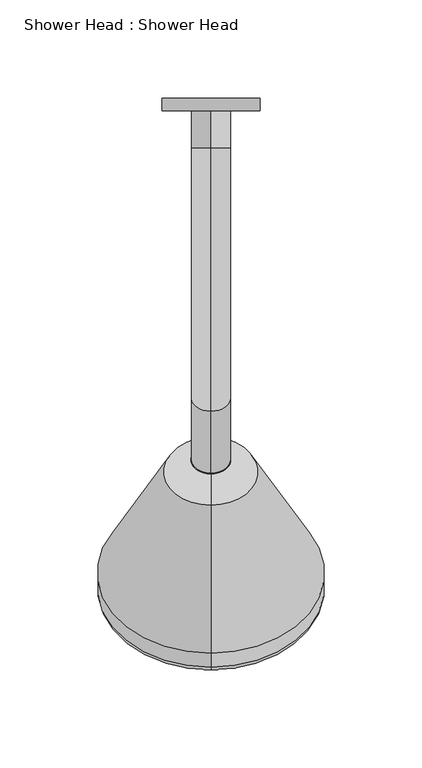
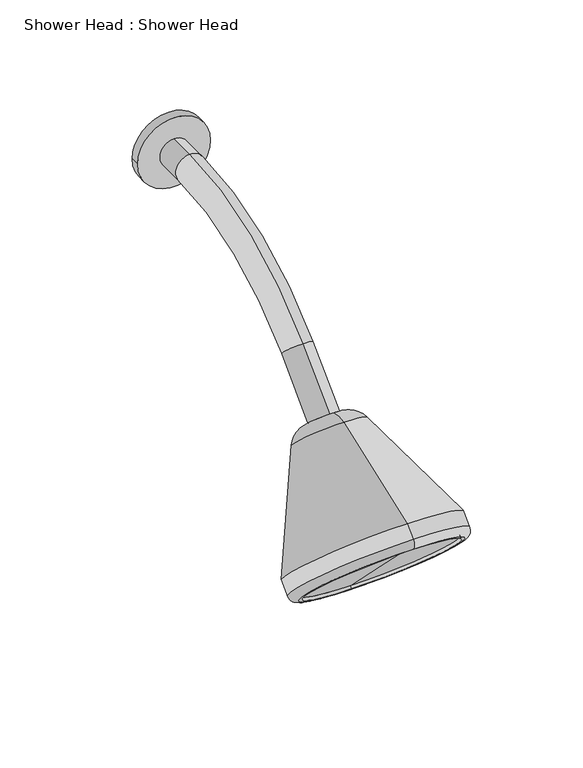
"""IFC4 building model written with IfcOpenShell, lengths in millimetres: flow terminal geometry, Shower Head : Shower Head."""

import ifcopenshell
import ifcopenshell.guid

model = None  # the IFC model being written
_history = None  # IfcOwnerHistory: only IFC2X3 demands one
_inside = {}  # id of a spatial element -> (the spatial element, [elements in it])
_under = {}  # id of a project, library or spatial element -> (it, [spatial elements below it])
_declared = {}  # id of a project -> (the project, [libraries it declares])
_typed = {}  # id of a type object -> (the type object, [elements of that type])
_made_of = {}  # id of a material, layer set ... -> (it, [elements and type objects made of it])


def new_model(schema):
    """Start an empty IFC model of exactly this schema.

    Asked for "IFC4X3", IfcOpenShell would pick the latest addendum, in which some entities
    have other attributes; the version numbers below select the first issue.
    IFC2X3 requires an IfcOwnerHistory on every rooted entity: one is made here for all.
    """
    global model, _history
    if schema == "IFC4X3":
        model = ifcopenshell.file(schema_version=(4, 3, 0, 0))
    else:
        model = ifcopenshell.file(schema=schema)
    _inside.clear()
    _under.clear()
    _declared.clear()
    _typed.clear()
    _made_of.clear()
    _history = None
    if model.schema == "IFC2X3":
        org = make("IfcOrganization", Name="unknown")
        user = make(
            "IfcPersonAndOrganization",
            ThePerson=make("IfcPerson", FamilyName="unknown"),
            TheOrganization=org,
        )
        app = make(
            "IfcApplication",
            ApplicationDeveloper=org,
            Version="unknown",
            ApplicationFullName="unknown",
            ApplicationIdentifier="unknown",
        )
        _history = make(
            "IfcOwnerHistory",
            OwningUser=user,
            OwningApplication=app,
            ChangeAction="ADDED",
            CreationDate=0,
        )
    return model


def make(cls, **values):
    """One entity of the class cls with the attributes given. An attribute that is None is left unset."""
    return model.create_entity(
        cls, **{name: value for name, value in values.items() if value is not None}
    )


def rooted(cls, **values):
    """An entity with a GlobalId (a new one), such as an element, a storey or a relation."""
    return make(cls, GlobalId=ifcopenshell.guid.new(), OwnerHistory=_history, **values)


def si_unit(unit_type, name, prefix=None):
    """IfcSIUnit, for example si_unit("LENGTHUNIT", "METRE", prefix="MILLI")."""
    return make("IfcSIUnit", UnitType=unit_type, Prefix=prefix, Name=name)


def assignment(units):
    """IfcUnitAssignment: the units of a project."""
    return None if units is None else make("IfcUnitAssignment", Units=units)


def point(xyz):
    """IfcCartesianPoint."""
    return None if xyz is None else make("IfcCartesianPoint", Coordinates=xyz)


def direction(xyz):
    """IfcDirection."""
    return None if xyz is None else make("IfcDirection", DirectionRatios=xyz)


def frame(location, z_axis=None, x_axis=None):
    """IfcAxis2Placement3D, a coordinate frame: its origin and axes. An axis left out is left unset."""
    return make(
        "IfcAxis2Placement3D",
        Location=point(location),
        Axis=direction(z_axis),
        RefDirection=direction(x_axis),
    )


def frame_2d(location, x_axis=None):
    """IfcAxis2Placement2D, a coordinate frame in the plane: its origin and x axis."""
    return make(
        "IfcAxis2Placement2D", Location=point(location), RefDirection=direction(x_axis)
    )


def origin():
    """The frame at (0, 0, 0) with its axes left unset."""
    return frame((0.0, 0.0, 0.0))


def place(relative_to, where):
    """IfcLocalPlacement: puts the frame where relative to a parent placement (None: the world)."""
    return make(
        "IfcLocalPlacement", PlacementRelTo=relative_to, RelativePlacement=where
    )


def context(
    kind, dimensions, precision=None, world=None, true_north=None, identifier=None
):
    """IfcGeometricRepresentationContext, for example the 3D "Model" context."""
    return make(
        "IfcGeometricRepresentationContext",
        ContextIdentifier=identifier,
        ContextType=kind,
        CoordinateSpaceDimension=dimensions,
        Precision=precision,
        WorldCoordinateSystem=world,
        TrueNorth=true_north,
    )


def project(units=None, contexts=None):
    """IfcProject with its units and contexts."""
    return rooted(
        "IfcProject",
        Name="project",
        RepresentationContexts=contexts,
        UnitsInContext=assignment(units),
    )


def spatial(cls, under=None, at=None, **own):
    """A site, building, storey or space (cls), placed at a placement, below another one or the project."""
    s = rooted(cls, ObjectPlacement=at, **own)
    if under is not None:
        _under.setdefault(under.id(), (under, []))[1].append(s)
    return s


def polyline(points):
    """IfcPolyline through the points."""
    return make("IfcPolyline", Points=[point(p) for p in points])


def circle_curve(where, radius):
    """IfcCircle in the frame where."""
    return make("IfcCircle", Position=where, Radius=radius)


def ellipse_curve(where, semi_axis1, semi_axis2):
    """IfcEllipse in the frame where."""
    return make(
        "IfcEllipse", Position=where, SemiAxis1=semi_axis1, SemiAxis2=semi_axis2
    )


def trimmed(basis, trim1, trim2, sense, master):
    """IfcTrimmedCurve: the piece of a basis curve between two trims."""
    return make(
        "IfcTrimmedCurve",
        BasisCurve=basis,
        Trim1=trim1,
        Trim2=trim2,
        SenseAgreement=sense,
        MasterRepresentation=master,
    )


def segment(curve, same_sense, transition):
    """IfcCompositeCurveSegment."""
    return make(
        "IfcCompositeCurveSegment",
        Transition=transition,
        SameSense=same_sense,
        ParentCurve=curve,
    )


def composite_curve(segments, self_intersect=None):
    """IfcCompositeCurve: segments joined end to end."""
    return make("IfcCompositeCurve", Segments=segments, SelfIntersect=self_intersect)


def outline(outer, holes=None, kind="AREA"):
    """IfcArbitraryClosedProfileDef: a profile drawn as a closed curve; with holes, ...WithVoids."""
    if holes is None:
        return make("IfcArbitraryClosedProfileDef", ProfileType=kind, OuterCurve=outer)
    return make(
        "IfcArbitraryProfileDefWithVoids",
        ProfileType=kind,
        OuterCurve=outer,
        InnerCurves=holes,
    )


def extrude(swept, where, along, depth):
    """IfcExtrudedAreaSolid: the profile swept, set in the frame where, extruded along a direction by depth."""
    return make(
        "IfcExtrudedAreaSolid",
        SweptArea=swept,
        Position=where,
        ExtrudedDirection=direction(along),
        Depth=depth,
    )


def shape(context_of_items, identifier, shape_type, items):
    """IfcShapeRepresentation: the items that make up one representation, for example the "Body"."""
    return make(
        "IfcShapeRepresentation",
        ContextOfItems=context_of_items,
        RepresentationIdentifier=identifier,
        RepresentationType=shape_type,
        Items=items,
    )


def source(mapping_origin, context_of_items, identifier, shape_type, items):
    """IfcRepresentationMap: a shape defined once, which mapped items show again and again."""
    return make(
        "IfcRepresentationMap",
        MappingOrigin=mapping_origin,
        MappedRepresentation=shape(context_of_items, identifier, shape_type, items),
    )


def transform(
    local_origin,
    x_axis=None,
    y_axis=None,
    z_axis=None,
    scale=None,
    scale2=None,
    scale3=None,
    uniform=True,
):
    """IfcCartesianTransformationOperator3D, or its non-uniform kind. x_axis, y_axis, z_axis: its Axis1, 2, 3."""
    if uniform:
        return make(
            "IfcCartesianTransformationOperator3D",
            Axis1=direction(x_axis),
            Axis2=direction(y_axis),
            LocalOrigin=point(local_origin),
            Scale=scale,
            Axis3=direction(z_axis),
        )
    return make(
        "IfcCartesianTransformationOperator3DnonUniform",
        Axis1=direction(x_axis),
        Axis2=direction(y_axis),
        LocalOrigin=point(local_origin),
        Scale=scale,
        Axis3=direction(z_axis),
        Scale2=scale2,
        Scale3=scale3,
    )


def mapped(mapping_source, mapping_target):
    """IfcMappedItem: shows the shape of a source again, moved by a transform."""
    return make(
        "IfcMappedItem", MappingSource=mapping_source, MappingTarget=mapping_target
    )


def made_of(thing, what):
    """Note that an element or type object is made of a material, layer set ...; save() writes the relation."""
    if what is not None:
        _made_of.setdefault(what.id(), (what, []))[1].append(thing)
    return thing


def element(
    cls,
    number,
    at=None,
    inside=None,
    cuts=None,
    type_object=None,
    material=None,
    context=None,
    identifier="Body",
    shape_type=None,
    held_by="IfcProductDefinitionShape",
    body=None,
    shapes=None,
    **own,
):
    """One element of the class cls, such as IfcWall. Its Tag is "e" and its number.

    at: its placement. inside: the storey or other place that contains it. cuts: it is an
    opening in that element (IfcRelVoidsElement). A single representation is given by context,
    identifier, shape_type and body (its items); several are given by shapes. held_by: the class
    of the entity that holds the representations. save() writes the other relations.
    """
    e = rooted(cls, Tag="e%d" % number, ObjectPlacement=at, **own)
    if body is not None:
        shapes = [shape(context, identifier, shape_type, body)]
    if shapes is not None:
        e.Representation = make(held_by, Representations=shapes)
    if inside is not None:
        _inside.setdefault(inside.id(), (inside, []))[1].append(e)
    if cuts is not None:
        rooted(
            "IfcRelVoidsElement", RelatingBuildingElement=cuts, RelatedOpeningElement=e
        )
    if type_object is not None:
        _typed.setdefault(type_object.id(), (type_object, []))[1].append(e)
    return made_of(e, material)


def aggregate(whole, parts):
    """IfcRelAggregates: a whole, such as a stair, and the parts it consists of."""
    return rooted("IfcRelAggregates", RelatingObject=whole, RelatedObjects=parts)


def save(model, path):
    """Write the relations noted so far, then the file.

    IfcRelAggregates (storeys below a building ...), IfcRelContainedInSpatialStructure (elements
    in a storey), IfcRelDefinesByType, IfcRelAssociatesMaterial and IfcRelDeclares: one each for
    every whole, place, type object, material and project.
    """
    for whole, parts in _under.values():
        aggregate(whole, parts)
    for where, things in _inside.values():
        rooted(
            "IfcRelContainedInSpatialStructure",
            RelatedElements=things,
            RelatingStructure=where,
        )
    for kind, things in _typed.values():
        rooted("IfcRelDefinesByType", RelatedObjects=things, RelatingType=kind)
    for what, things in _made_of.values():
        rooted("IfcRelAssociatesMaterial", RelatedObjects=things, RelatingMaterial=what)
    for by, libraries in _declared.values():
        rooted("IfcRelDeclares", RelatingContext=by, RelatedDefinitions=libraries)
    model.write(path)


def plane_surface(at):
    """IfcPlane: the flat surface through the origin of the frame at, square to its z axis."""
    return make("IfcPlane", Position=at)


def cylinder_surface(at, radius):
    """IfcCylindricalSurface: all points at the distance radius from the z axis of the frame at."""
    return make("IfcCylindricalSurface", Position=at, Radius=radius)


def revolved_surface(curve, axis_point, axis_direction):
    """IfcSurfaceOfRevolution: the curve turned about the line through axis_point along axis_direction."""
    return make(
        "IfcSurfaceOfRevolution",
        SweptCurve=make("IfcArbitraryOpenProfileDef", ProfileType="CURVE", Curve=curve),
        AxisPosition=make("IfcAxis1Placement", Location=point(axis_point), Axis=direction(axis_direction)),
    )


def advanced_brep(points, edges, surfaces, faces):
    """IfcAdvancedBrep: a solid bounded by faces that lie on surfaces and meet in shared edges.

    An edge is (start, end): straight between two places in points (the first is 0);
    or (start, end, curve); or (start, end, curve, False) where it runs against its curve.
    A face is (place in surfaces, loops), or (place, loops, False) where it looks against
    its surface's normal. A loop lists edges by number (the first is 1), with a minus sign
    where the edge is run from its end to its start. The first loop is the outer one.
    """
    corners = [point(p) for p in points]
    vertices = [make("IfcVertexPoint", VertexGeometry=c) for c in corners]
    made = []
    for start, end, *more in edges:
        made.append(
            make(
                "IfcEdgeCurve",
                EdgeStart=vertices[start],
                EdgeEnd=vertices[end],
                EdgeGeometry=more[0] if more else make("IfcPolyline", Points=[corners[start], corners[end]]),
                SameSense=more[1] if len(more) > 1 else True,
            )
        )
    hull = []
    for where, loops, *sense in faces:
        bounds = []
        for j, loop in enumerate(loops):
            ring = [make("IfcOrientedEdge", EdgeElement=made[abs(k) - 1], Orientation=k > 0) for k in loop]
            bounds.append(
                make(
                    "IfcFaceOuterBound" if j == 0 else "IfcFaceBound",
                    Bound=make("IfcEdgeLoop", EdgeList=ring),
                    Orientation=True,
                )
            )
        hull.append(make("IfcAdvancedFace", Bounds=bounds, FaceSurface=surfaces[where], SameSense=sense[0] if sense else True))
    return make("IfcAdvancedBrep", Outer=make("IfcClosedShell", CfsFaces=hull))


def shower_head_shower_head_3f4786c7(model_context):
    return source(origin(), model_context, "Body", "SolidModel", [
        extrude(outline(composite_curve([segment(trimmed(circle_curve(frame_2d((1600.0, 0.0)), 25.0), [point((1600.0, -25.0))], [point((1600.0, 25.0))], False, "CARTESIAN"), True, "CONTINUOUS"), segment(trimmed(circle_curve(frame_2d((1600.0, 0.0)), 25.0), [point((1600.0, 25.0))], [point((1600.0, -25.0))], False, "CARTESIAN"), True, "CONTINUOUS")], self_intersect=False)), frame((0.0, -6.4821489, 0.0), z_axis=(0.0, 1.0, 0.0), x_axis=(0.0, 0.0, 1.0)), (0.0, 0.0, 1.0), 6.4821489),
        advanced_brep(
        [(0.0, -207.6624735, 1526.3331882), (0.0, -191.9255696, 1522.8444006), (0.0, -177.1555994, 1508.0744304), (0.0, -173.6668118, 1492.3375265), (0.0, -283.255056, 1498.8197382), (0.0, -201.1802618, 1416.744944), (0.0, -290.3261238, 1491.7486704), (0.0, -208.2513296, 1409.6738762), (0.0, -290.3261238, 1484.6776026), (0.0, -215.3223974, 1409.6738762), (0.0, -288.6229509, 1482.9744296), (0.0, -217.0255704, 1411.3770491), (0.0, -287.2087373, 1484.3886432), (0.0, -215.6113568, 1412.7912627), (0.0, -251.4100471, 1448.5899529), (0.0, -184.5405845, 1515.4594155)],
        [
            (0, 1, circle_curve(frame((0.0, -202.5321714, 1512.2377988), z_axis=(-1.0000000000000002, 0.0, 0.0), x_axis=(0.0, 0.0, -1.0000000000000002)), 15.0)),
            (1, 2, circle_curve(frame((0.0, -184.5405845, 1515.4594155), z_axis=(0.0, -0.7071067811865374, -0.7071067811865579), x_axis=(0.0, 0.7071067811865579, -0.7071067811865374)), 10.4439461)),
            (2, 3, circle_curve(frame((0.0, -187.7622012, 1497.4678286), z_axis=(-1.0000000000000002, 0.0, 0.0), x_axis=(0.0, -1.0000000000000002, 0.0)), 15.0)),
            (3, 0, circle_curve(frame((0.0, -190.6646427, 1509.3353573), z_axis=(0.0, 0.7071067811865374, 0.7071067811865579), x_axis=(0.0, 0.7071067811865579, -0.7071067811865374)), 24.0385629)),
            (2, 1, circle_curve(frame((0.0, -184.5405845, 1515.4594155), z_axis=(0.0, -0.7071067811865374, -0.7071067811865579), x_axis=(0.0, 0.7071067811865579, -0.7071067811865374)), 10.4439461)),
            (0, 3, circle_curve(frame((0.0, -190.6646427, 1509.3353573), z_axis=(0.0, 0.7071067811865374, 0.7071067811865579), x_axis=(0.0, 0.7071067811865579, -0.7071067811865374)), 24.0385629)),
            (4, 0),
            (3, 5),
            (5, 4, circle_curve(frame((0.0, -242.2176589, 1457.7823411), z_axis=(0.0, 0.7071067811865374, 0.7071067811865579), x_axis=(0.0, 0.7071067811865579, -0.7071067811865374)), 58.0356436)),
            (4, 5, circle_curve(frame((0.0, -242.2176589, 1457.7823411), z_axis=(0.0, 0.7071067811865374, 0.7071067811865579), x_axis=(0.0, 0.7071067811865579, -0.7071067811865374)), 58.0356436)),
            (6, 4),
            (5, 7),
            (7, 6, circle_curve(frame((0.0, -249.2887267, 1450.7112733), z_axis=(0.0, 0.7071067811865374, 0.7071067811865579), x_axis=(0.0, 0.7071067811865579, -0.7071067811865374)), 58.0356436)),
            (6, 7, circle_curve(frame((0.0, -249.2887267, 1450.7112733), z_axis=(0.0, 0.7071067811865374, 0.7071067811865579), x_axis=(0.0, 0.7071067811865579, -0.7071067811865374)), 58.0356436)),
            (8, 6, circle_curve(frame((0.0, -286.7905899, 1488.2131365), z_axis=(-1.0000000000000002, 0.0, 0.0), x_axis=(0.0, 0.0, -1.0000000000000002)), 5.0)),
            (7, 9, circle_curve(frame((0.0, -211.7868635, 1413.2094101), z_axis=(-1.0000000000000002, 0.0, 0.0), x_axis=(0.0, -1.0000000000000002, 0.0)), 5.0)),
            (9, 8, circle_curve(frame((0.0, -252.8242606, 1447.1757394), z_axis=(0.0, 0.7071067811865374, 0.7071067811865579), x_axis=(0.0, 0.7071067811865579, -0.7071067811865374)), 53.0356436)),
            (8, 9, circle_curve(frame((0.0, -252.8242606, 1447.1757394), z_axis=(0.0, 0.7071067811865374, 0.7071067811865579), x_axis=(0.0, 0.7071067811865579, -0.7071067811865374)), 53.0356436)),
            (10, 8),
            (9, 11),
            (11, 10, circle_curve(frame((0.0, -252.8242606, 1447.1757394), z_axis=(0.0, 0.7071067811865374, 0.7071067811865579), x_axis=(0.0, 0.7071067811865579, -0.7071067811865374)), 50.6269933)),
            (10, 11, circle_curve(frame((0.0, -252.8242606, 1447.1757394), z_axis=(0.0, 0.7071067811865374, 0.7071067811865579), x_axis=(0.0, 0.7071067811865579, -0.7071067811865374)), 50.6269933)),
            (12, 10),
            (11, 13),
            (13, 12, circle_curve(frame((0.0, -251.4100471, 1448.5899529), z_axis=(0.0, 0.7071067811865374, 0.7071067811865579), x_axis=(0.0, 0.7071067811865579, -0.7071067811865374)), 50.6269933)),
            (12, 13, circle_curve(frame((0.0, -251.4100471, 1448.5899529), z_axis=(0.0, 0.7071067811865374, 0.7071067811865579), x_axis=(0.0, 0.7071067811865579, -0.7071067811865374)), 50.6269933)),
            (14, 12),
            (13, 14),
            (1, 15),
            (15, 2),
        ],
        [
            revolved_surface(trimmed(ellipse_curve(frame((0.0, -187.7622012, 1497.4678286), z_axis=(-1.0000000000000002, 0.0, 0.0), x_axis=(0.0, -1.0000000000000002, 0.0)), 15.0, 15.0), [point((0.0, -177.1555994, 1508.0744304))], [point((0.0, -173.6668118, 1492.3375265))], True, "CARTESIAN"), (0.0, -184.5405845, 1515.4594155), (0.0, -0.7071067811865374, -0.7071067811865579)),
            revolved_surface(polyline([(0.0, -173.6668118, 1492.3375265), (0.0, -201.1802618, 1416.744944)]), (0.0, -184.5405845, 1515.4594155), (0.0, -0.7071067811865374, -0.7071067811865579)),
            cylinder_surface(frame((0.0, -184.5405845, 1515.4594155), z_axis=(0.0, -0.7071067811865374, -0.7071067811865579), x_axis=(0.0, 0.7071067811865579, -0.7071067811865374)), 58.0356436),
            revolved_surface(trimmed(ellipse_curve(frame((0.0, -211.7868635, 1413.2094101), z_axis=(-1.0000000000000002, 0.0, 0.0), x_axis=(0.0, -1.0000000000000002, 0.0)), 5.0, 5.0), [point((0.0, -208.2513296, 1409.6738762))], [point((0.0, -215.3223974, 1409.6738762))], True, "CARTESIAN"), (0.0, -184.5405845, 1515.4594155), (0.0, -0.7071067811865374, -0.7071067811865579)),
            plane_surface(frame((0.0, -252.8242606, 1447.1757394), z_axis=(0.0, -0.7071067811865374, -0.7071067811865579), x_axis=(0.0, 0.7071067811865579, -0.7071067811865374))),
            revolved_surface(polyline([(0.0, -217.02557037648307, 1411.3770490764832), (0.0, -215.61135677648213, 1412.7912626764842)]), (0.0, -184.5405845, 1515.4594155), (0.0, -0.7071067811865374, -0.7071067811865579)),
            plane_surface(frame((0.0, -251.4100471, 1448.5899529), z_axis=(0.0, -0.7071067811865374, -0.7071067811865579), x_axis=(0.0, 0.7071067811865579, -0.7071067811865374))),
            plane_surface(frame((0.0, -184.5405845, 1515.4594155), z_axis=(0.0, 0.7071067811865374, 0.7071067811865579), x_axis=(0.0, 0.7071067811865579, -0.7071067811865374))),
        ],
        [
            (0, [[1, 2, 3, 4]]),
            (0, [[-3, 5, -1, 6]]),
            (1, [[7, -4, 8, 9]]),
            (1, [[-8, -6, -7, 10]]),
            (2, [[11, -9, 12, 13]]),
            (2, [[-12, -10, -11, 14]]),
            (3, [[15, -13, 16, 17]]),
            (3, [[-16, -14, -15, 18]]),
            (4, [[19, -17, 20, 21]]),
            (4, [[-20, -18, -19, 22]]),
            (5, [[23, -21, 24, 25]]),
            (5, [[-24, -22, -23, 26]]),
            (6, [[27, -25, 28]]),
            (6, [[-28, -26, -27]]),
            (7, [[29, 30, -2]]),
            (7, [[-30, -29, -5]]),
        ],
    ),
        advanced_brep(
        [(0.0, -6.4821489, 1590.0), (0.0, -6.4821489, 1610.0), (0.0, -25.4415588, 1610.0), (0.0, -25.4415588, 1590.0), (0.0, -159.7918472, 1554.3502884), (0.0, -145.6497116, 1540.2081528), (0.0, -177.4695167, 1508.3883476), (0.0, -191.6116524, 1522.5304833)],
        [
            (0, 1, circle_curve(frame((0.0, -6.4821489, 1600.0), z_axis=(0.0, 1.0, 0.0), x_axis=(0.0, 0.0, 1.0)), 10.0)),
            (1, 0, circle_curve(frame((0.0, -6.4821489, 1600.0), z_axis=(0.0, 1.0, 0.0), x_axis=(0.0, 0.0, 1.0)), 10.0)),
            (1, 2),
            (2, 3, circle_curve(frame((0.0, -25.4415588, 1600.0), z_axis=(0.0, 1.0, 0.0), x_axis=(0.0, 0.0, 1.0)), 10.0)),
            (3, 0),
            (3, 2, circle_curve(frame((0.0, -25.4415588, 1600.0), z_axis=(0.0, 1.0, 0.0), x_axis=(0.0, 0.0, 1.0)), 10.0)),
            (4, 5, circle_curve(frame((0.0, -152.7207794, 1547.2792206), z_axis=(0.0, 0.7071067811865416, 0.7071067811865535), x_axis=(0.0, -0.7071067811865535, 0.7071067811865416)), 10.0)),
            (5, 3, circle_curve(frame((0.0, -25.4415588, 1420.0), z_axis=(-1.0, 0.0, 0.0), x_axis=(0.0, 0.0, 1.0)), 170.0)),
            (2, 4, circle_curve(frame((0.0, -25.4415588, 1420.0), z_axis=(1.0, 0.0, 0.0), x_axis=(0.0, 0.0, 1.0)), 190.0)),
            (5, 4, circle_curve(frame((0.0, -152.7207794, 1547.2792206), z_axis=(0.0, 0.7071067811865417, 0.7071067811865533), x_axis=(0.0, -0.7071067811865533, 0.7071067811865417)), 10.0)),
            (6, 7, circle_curve(frame((0.0, -184.5405845, 1515.4594155), z_axis=(0.0, -0.7071067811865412, -0.7071067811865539), x_axis=(0.0, -0.7071067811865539, 0.7071067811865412)), 10.0)),
            (7, 6, circle_curve(frame((0.0, -184.5405845, 1515.4594155), z_axis=(0.0, -0.7071067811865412, -0.7071067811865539), x_axis=(0.0, -0.7071067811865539, 0.7071067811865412)), 10.0)),
            (4, 7),
            (6, 5),
        ],
        [
            plane_surface(frame((0.0, -6.4821489, 1600.0), z_axis=(0.0, 1.0, 0.0), x_axis=(1.0, 0.0, 0.0))),
            cylinder_surface(frame((0.0, -6.4821489, 1600.0), z_axis=(0.0, 1.0, 0.0), x_axis=(0.0, 0.0, 1.0)), 10.0),
            revolved_surface(trimmed(ellipse_curve(frame((0.0, -25.4415588, 1600.0), z_axis=(0.0, -1.0, 0.0), x_axis=(0.0, 0.0, 1.0)), 10.0, 10.0), [point((0.0, -25.4415588, 1590.0))], [point((0.0, -25.4415588, 1610.0))], True, "CARTESIAN"), (0.0, -25.4415588, 1420.0), (-1.0, 0.0, 0.0)),
            revolved_surface(trimmed(ellipse_curve(frame((0.0, -25.4415588, 1600.0), z_axis=(0.0, -1.0, 0.0), x_axis=(0.0, 0.0, 1.0)), 10.0, 10.0), [point((0.0, -25.4415588, 1610.0))], [point((0.0, -25.4415588, 1590.0))], True, "CARTESIAN"), (0.0, -25.4415588, 1420.0), (-1.0, 0.0, 0.0)),
            plane_surface(frame((0.0, -184.5405845, 1515.4594155), z_axis=(0.0, -0.7071067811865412, -0.7071067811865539), x_axis=(1.0, 0.0, 0.0))),
            cylinder_surface(frame((0.0, -152.7207794, 1547.2792206), z_axis=(0.0, 0.7071067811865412, 0.7071067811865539), x_axis=(0.0, -0.7071067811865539, 0.7071067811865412)), 10.0),
        ],
        [
            (0, [[1, 2]]),
            (1, [[3, 4, 5, -2]]),
            (1, [[-5, 6, -3, -1]]),
            (2, [[7, 8, -4, 9]]),
            (3, [[10, -9, -6, -8]]),
            (4, [[11, 12]]),
            (5, [[13, -11, 14, -7]]),
            (5, [[-14, -12, -13, -10]]),
        ],
    ),
    ])


if __name__ == "__main__":
    model = new_model("IFC4")
    model_context = context("Model", 3, world=origin())
    ifc_project = project(units=[si_unit("LENGTHUNIT", "METRE", prefix="MILLI")], contexts=[model_context])
    site = spatial("IfcSite", under=ifc_project)
    building = spatial("IfcBuilding", under=site)
    placement = place(None, origin())
    shower_head_shower_head_shape = shower_head_shower_head_3f4786c7(model_context)
    element("IfcFlowTerminal", 1, ObjectType="Shower Head : Shower Head", at=placement, inside=building, context=model_context, shape_type="MappedRepresentation", body=[
        mapped(shower_head_shower_head_shape, transform((0.0, 0.0, 0.0), x_axis=(1.0, 0.0, 0.0), y_axis=(0.0, 1.0, 0.0), z_axis=(0.0, 0.0, 1.0))),
    ])
    save(model, "model.ifc")
